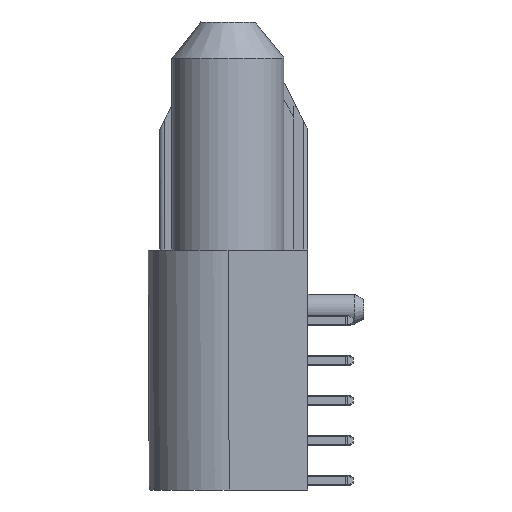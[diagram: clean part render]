
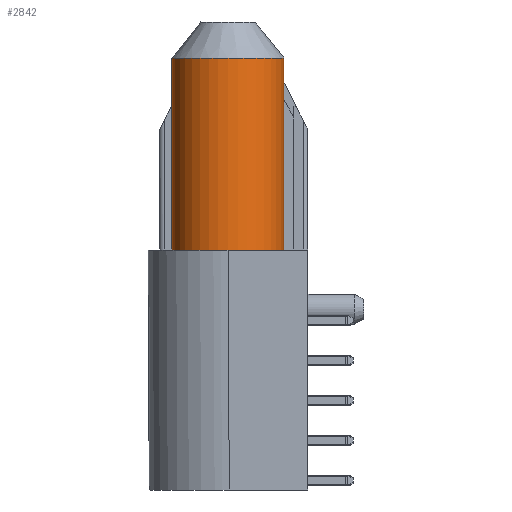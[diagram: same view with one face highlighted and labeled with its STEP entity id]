
A CAD part, left-side view. The second image highlights one B-rep face of the part: STEP entity #2842.
In plain terms, the highlighted cylindrical face has radius 3.5 mm (diameter 7 mm), a partial arc.
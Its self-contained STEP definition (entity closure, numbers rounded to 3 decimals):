
#2842=ADVANCED_FACE('',(#5527),#4090,.T.);
#4090=CYLINDRICAL_SURFACE('',#35839,3.5);
#5527=FACE_OUTER_BOUND('',#7422,.T.);
#7422=EDGE_LOOP('',(#16404,#16405,#16406,#16407));
#9815=CIRCLE('',#35837,3.5);
#9816=CIRCLE('',#35838,3.5);
#16404=ORIENTED_EDGE('',*,*,#26218,.F.);
#16405=ORIENTED_EDGE('',*,*,#26219,.F.);
#16406=ORIENTED_EDGE('',*,*,#26220,.T.);
#16407=ORIENTED_EDGE('',*,*,#26221,.F.);
#21880=VERTEX_POINT('',#55340);
#21881=VERTEX_POINT('',#55341);
#21882=VERTEX_POINT('',#55343);
#21883=VERTEX_POINT('',#55345);
#26218=EDGE_CURVE('',#21880,#21881,#9815,.T.);
#26219=EDGE_CURVE('',#21882,#21880,#29334,.T.);
#26220=EDGE_CURVE('',#21882,#21883,#9816,.T.);
#26221=EDGE_CURVE('',#21881,#21883,#29335,.T.);
#29334=LINE('',#55342,#32014);
#29335=LINE('',#55346,#32015);
#32014=VECTOR('',#43328,1.);
#32015=VECTOR('',#43331,1.);
#35837=AXIS2_PLACEMENT_3D('',#55339,#43326,#43327);
#35838=AXIS2_PLACEMENT_3D('',#55344,#43329,#43330);
#35839=AXIS2_PLACEMENT_3D('',#55347,#43332,#43333);
#43326=DIRECTION('',(0.,0.,-1.));
#43327=DIRECTION('',(-1.,0.,0.));
#43328=DIRECTION('',(0.,0.,-1.));
#43329=DIRECTION('',(0.,0.,-1.));
#43330=DIRECTION('',(0.,-1.,0.));
#43331=DIRECTION('',(0.,0.,1.));
#43332=DIRECTION('',(0.,0.,1.));
#43333=DIRECTION('',(1.,0.,0.));
#55339=CARTESIAN_POINT('',(-42.02,5.,15.));
#55340=CARTESIAN_POINT('',(-42.02,1.5,15.));
#55341=CARTESIAN_POINT('',(-42.02,8.5,15.));
#55342=CARTESIAN_POINT('',(-42.02,1.5,26.5));
#55343=CARTESIAN_POINT('',(-42.02,1.5,27.));
#55344=CARTESIAN_POINT('',(-42.02,5.,27.));
#55345=CARTESIAN_POINT('',(-42.02,8.5,27.));
#55346=CARTESIAN_POINT('',(-42.02,8.5,15.75));
#55347=CARTESIAN_POINT('',(-42.02,5.,14.75));
